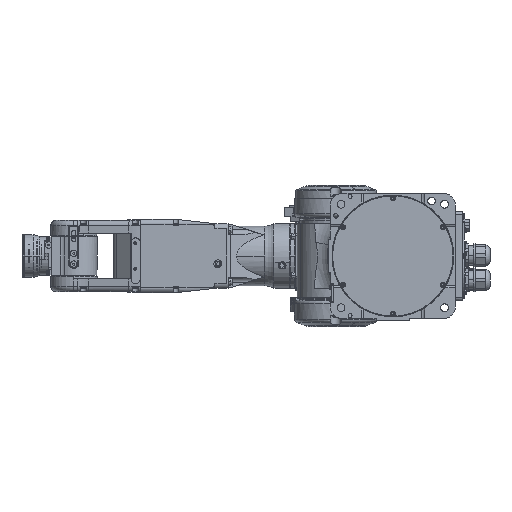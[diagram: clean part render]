
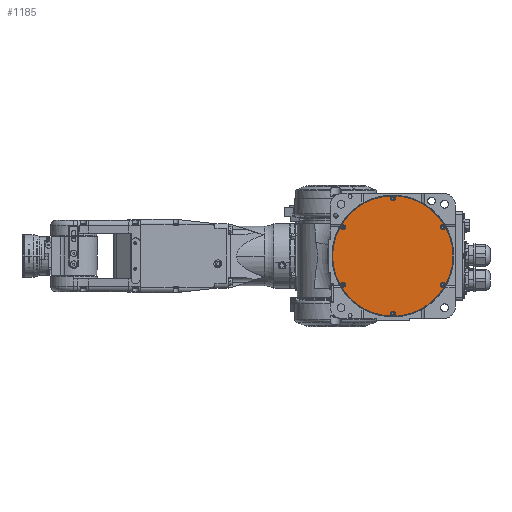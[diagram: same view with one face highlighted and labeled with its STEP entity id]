
A CAD part, front view. The second image highlights one B-rep face of the part: STEP entity #1185.
In plain terms, the highlighted planar face has unit normal (0, -1, 0).
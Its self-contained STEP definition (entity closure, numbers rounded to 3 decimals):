
#1185 = ADVANCED_FACE( '', ( #5610, #5611, #5612, #5613, #5614, #5615, #5616 ), #5617, .T. );
#5610 = FACE_BOUND( '', #12973, .T. );
#5611 = FACE_BOUND( '', #12974, .T. );
#5612 = FACE_BOUND( '', #12975, .T. );
#5613 = FACE_BOUND( '', #12976, .T. );
#5614 = FACE_BOUND( '', #12977, .T. );
#5615 = FACE_BOUND( '', #12978, .T. );
#5616 = FACE_OUTER_BOUND( '', #12979, .T. );
#5617 = PLANE( '', #12980 );
#12973 = EDGE_LOOP( '', ( #25111, #25112 ) );
#12974 = EDGE_LOOP( '', ( #25113, #25114 ) );
#12975 = EDGE_LOOP( '', ( #25115, #25116 ) );
#12976 = EDGE_LOOP( '', ( #25117, #25118 ) );
#12977 = EDGE_LOOP( '', ( #25119, #25120 ) );
#12978 = EDGE_LOOP( '', ( #25121, #25122 ) );
#12979 = EDGE_LOOP( '', ( #25123, #25124 ) );
#12980 = AXIS2_PLACEMENT_3D( '', #25125, #25126, #25127 );
#25111 = ORIENTED_EDGE( '', *, *, #47101, .T. );
#25112 = ORIENTED_EDGE( '', *, *, #49100, .T. );
#25113 = ORIENTED_EDGE( '', *, *, #47091, .T. );
#25114 = ORIENTED_EDGE( '', *, *, #49103, .T. );
#25115 = ORIENTED_EDGE( '', *, *, #47082, .T. );
#25116 = ORIENTED_EDGE( '', *, *, #49107, .T. );
#25117 = ORIENTED_EDGE( '', *, *, #47073, .T. );
#25118 = ORIENTED_EDGE( '', *, *, #49111, .T. );
#25119 = ORIENTED_EDGE( '', *, *, #47064, .T. );
#25120 = ORIENTED_EDGE( '', *, *, #49113, .T. );
#25121 = ORIENTED_EDGE( '', *, *, #47056, .T. );
#25122 = ORIENTED_EDGE( '', *, *, #49115, .T. );
#25123 = ORIENTED_EDGE( '', *, *, #47175, .F. );
#25124 = ORIENTED_EDGE( '', *, *, #48790, .F. );
#25125 = CARTESIAN_POINT( '', ( 46.5, 3.4, 0. ) );
#25126 = DIRECTION( '', ( 0., -1., 0. ) );
#25127 = DIRECTION( '', ( -1., 0., 0. ) );
#47056 = EDGE_CURVE( '', #56066, #56070, #56072, .T. );
#47064 = EDGE_CURVE( '', #56080, #56084, #56086, .T. );
#47073 = EDGE_CURVE( '', #56094, #56100, #56102, .T. );
#47082 = EDGE_CURVE( '', #56111, #56117, #56119, .T. );
#47091 = EDGE_CURVE( '', #56128, #56134, #56136, .T. );
#47101 = EDGE_CURVE( '', #56147, #56153, #56155, .T. );
#47175 = EDGE_CURVE( '', #56289, #56292, #56293, .T. );
#48790 = EDGE_CURVE( '', #56292, #56289, #58962, .T. );
#49100 = EDGE_CURVE( '', #56153, #56147, #59462, .T. );
#49103 = EDGE_CURVE( '', #56134, #56128, #59465, .T. );
#49107 = EDGE_CURVE( '', #56117, #56111, #59470, .T. );
#49111 = EDGE_CURVE( '', #56100, #56094, #59475, .T. );
#49113 = EDGE_CURVE( '', #56084, #56080, #59477, .T. );
#49115 = EDGE_CURVE( '', #56070, #56066, #59479, .T. );
#56066 = VERTEX_POINT( '', #70988 );
#56070 = VERTEX_POINT( '', #70993 );
#56072 = CIRCLE( '', #70996, 3.8 );
#56080 = VERTEX_POINT( '', #71004 );
#56084 = VERTEX_POINT( '', #71009 );
#56086 = CIRCLE( '', #71012, 3.8 );
#56094 = VERTEX_POINT( '', #71020 );
#56100 = VERTEX_POINT( '', #71027 );
#56102 = CIRCLE( '', #71030, 3.8 );
#56111 = VERTEX_POINT( '', #71039 );
#56117 = VERTEX_POINT( '', #71046 );
#56119 = CIRCLE( '', #71049, 3.8 );
#56128 = VERTEX_POINT( '', #71058 );
#56134 = VERTEX_POINT( '', #71065 );
#56136 = CIRCLE( '', #71068, 3.8 );
#56147 = VERTEX_POINT( '', #71079 );
#56153 = VERTEX_POINT( '', #71086 );
#56155 = CIRCLE( '', #71089, 3.8 );
#56289 = VERTEX_POINT( '', #71317 );
#56292 = VERTEX_POINT( '', #71321 );
#56293 = CIRCLE( '', #71322, 93. );
#58962 = CIRCLE( '', #75859, 93. );
#59462 = CIRCLE( '', #76785, 3.8 );
#59465 = CIRCLE( '', #76788, 3.8 );
#59470 = CIRCLE( '', #76793, 3.8 );
#59475 = CIRCLE( '', #76798, 3.8 );
#59477 = CIRCLE( '', #76800, 3.8 );
#59479 = CIRCLE( '', #76802, 3.8 );
#70988 = CARTESIAN_POINT( '', ( 0., 3.4, -92.8 ) );
#70993 = CARTESIAN_POINT( '', ( 0., 3.4, -85.2 ) );
#70996 = AXIS2_PLACEMENT_3D( '', #99124, #99125, #99126 );
#71004 = CARTESIAN_POINT( '', ( 0., 3.4, 85.2 ) );
#71009 = CARTESIAN_POINT( '', ( 0., 3.4, 92.8 ) );
#71012 = AXIS2_PLACEMENT_3D( '', #99144, #99145, #99146 );
#71020 = CARTESIAN_POINT( '', ( -80.367, 3.4, -46.4 ) );
#71027 = CARTESIAN_POINT( '', ( -73.785, 3.4, -42.6 ) );
#71030 = AXIS2_PLACEMENT_3D( '', #99167, #99168, #99169 );
#71039 = CARTESIAN_POINT( '', ( 73.785, 3.4, 42.6 ) );
#71046 = CARTESIAN_POINT( '', ( 80.367, 3.4, 46.4 ) );
#71049 = AXIS2_PLACEMENT_3D( '', #99190, #99191, #99192 );
#71058 = CARTESIAN_POINT( '', ( 80.367, 3.4, -46.4 ) );
#71065 = CARTESIAN_POINT( '', ( 73.785, 3.4, -42.6 ) );
#71068 = AXIS2_PLACEMENT_3D( '', #99213, #99214, #99215 );
#71079 = CARTESIAN_POINT( '', ( -73.785, 3.4, 42.6 ) );
#71086 = CARTESIAN_POINT( '', ( -80.367, 3.4, 46.4 ) );
#71089 = AXIS2_PLACEMENT_3D( '', #99239, #99240, #99241 );
#71317 = CARTESIAN_POINT( '', ( 93., 3.4, 0. ) );
#71321 = CARTESIAN_POINT( '', ( -93., 3.4, 0. ) );
#71322 = AXIS2_PLACEMENT_3D( '', #99400, #99401, #99402 );
#75859 = AXIS2_PLACEMENT_3D( '', #102071, #102072, #102073 );
#76785 = AXIS2_PLACEMENT_3D( '', #102480, #102481, #102482 );
#76788 = AXIS2_PLACEMENT_3D( '', #102489, #102490, #102491 );
#76793 = AXIS2_PLACEMENT_3D( '', #102501, #102502, #102503 );
#76798 = AXIS2_PLACEMENT_3D( '', #102513, #102514, #102515 );
#76800 = AXIS2_PLACEMENT_3D( '', #102519, #102520, #102521 );
#76802 = AXIS2_PLACEMENT_3D( '', #102525, #102526, #102527 );
#99124 = CARTESIAN_POINT( '', ( 0., 3.4, -89. ) );
#99125 = DIRECTION( '', ( 0., 1., 0. ) );
#99126 = DIRECTION( '', ( 0., 0., -1. ) );
#99144 = CARTESIAN_POINT( '', ( 0., 3.4, 89. ) );
#99145 = DIRECTION( '', ( 0., 1., 0. ) );
#99146 = DIRECTION( '', ( 0., 0., -1. ) );
#99167 = CARTESIAN_POINT( '', ( -77.076, 3.4, -44.5 ) );
#99168 = DIRECTION( '', ( 0., 1., 0. ) );
#99169 = DIRECTION( '', ( -0.866, 0., -0.5 ) );
#99190 = CARTESIAN_POINT( '', ( 77.076, 3.4, 44.5 ) );
#99191 = DIRECTION( '', ( 0., 1., 0. ) );
#99192 = DIRECTION( '', ( -0.866, 0., -0.5 ) );
#99213 = CARTESIAN_POINT( '', ( 77.076, 3.4, -44.5 ) );
#99214 = DIRECTION( '', ( 0., 1., 0. ) );
#99215 = DIRECTION( '', ( 0.866, 0., -0.5 ) );
#99239 = CARTESIAN_POINT( '', ( -77.076, 3.4, 44.5 ) );
#99240 = DIRECTION( '', ( 0., 1., 0. ) );
#99241 = DIRECTION( '', ( 0.866, 0., -0.5 ) );
#99400 = CARTESIAN_POINT( '', ( 0., 3.4, 0. ) );
#99401 = DIRECTION( '', ( 0., 1., 0. ) );
#99402 = DIRECTION( '', ( 1., 0., 0. ) );
#102071 = CARTESIAN_POINT( '', ( 0., 3.4, 0. ) );
#102072 = DIRECTION( '', ( 0., 1., 0. ) );
#102073 = DIRECTION( '', ( 1., 0., 0. ) );
#102480 = CARTESIAN_POINT( '', ( -77.076, 3.4, 44.5 ) );
#102481 = DIRECTION( '', ( 0., 1., 0. ) );
#102482 = DIRECTION( '', ( 0.866, 0., -0.5 ) );
#102489 = CARTESIAN_POINT( '', ( 77.076, 3.4, -44.5 ) );
#102490 = DIRECTION( '', ( 0., 1., 0. ) );
#102491 = DIRECTION( '', ( 0.866, 0., -0.5 ) );
#102501 = CARTESIAN_POINT( '', ( 77.076, 3.4, 44.5 ) );
#102502 = DIRECTION( '', ( 0., 1., 0. ) );
#102503 = DIRECTION( '', ( -0.866, 0., -0.5 ) );
#102513 = CARTESIAN_POINT( '', ( -77.076, 3.4, -44.5 ) );
#102514 = DIRECTION( '', ( 0., 1., 0. ) );
#102515 = DIRECTION( '', ( -0.866, 0., -0.5 ) );
#102519 = CARTESIAN_POINT( '', ( 0., 3.4, 89. ) );
#102520 = DIRECTION( '', ( 0., 1., 0. ) );
#102521 = DIRECTION( '', ( 0., 0., -1. ) );
#102525 = CARTESIAN_POINT( '', ( 0., 3.4, -89. ) );
#102526 = DIRECTION( '', ( 0., 1., 0. ) );
#102527 = DIRECTION( '', ( 0., 0., -1. ) );
